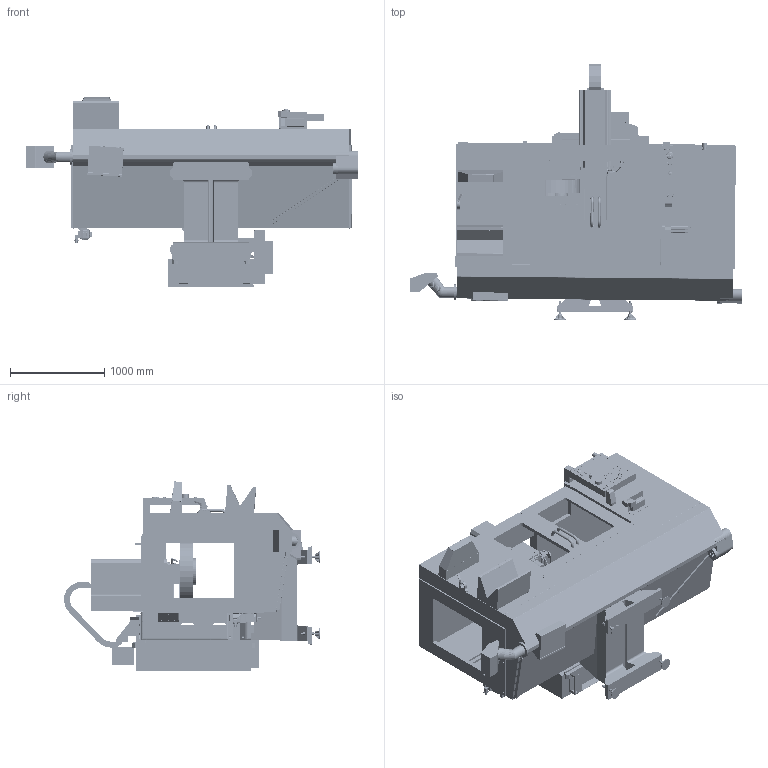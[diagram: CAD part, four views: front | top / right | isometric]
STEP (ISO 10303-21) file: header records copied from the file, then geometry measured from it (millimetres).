
FILE_DESCRIPTION (( 'STEP AP214' ), '1' );
FILE_NAME ('TM-2_2P-STEP_2021_10.STEP', '2021-11-03T20:55:57', ( '' ), ( '' ), 'SwSTEP 2.0', 'SolidWorks 2021', '' );
FILE_SCHEMA (( 'AUTOMOTIVE_DESIGN' ));
Length unit declared in the file: inch
Products named in the file (38): Default_defeature^10000161633_MLD_1_TM2-1; Add-Ons_TM2_2P_10_2021-1; Pads-1; 10000153663_MLD_1_TM2(Default_defeature); 10000161904_MLD_1_TM1(37-5229_defeature); Conv_PKG_TM2_2P_10_2021-1; Default_defeature^10000156941_MLD_1_TM2-1; Full_Enclosure_TM2_2P_10_2021( Shiipping); 37-5219 CORE ENCLOSURE TM-2, 2P REBOOT_defeature^10000162304_MLD_1_TM2-1; Default_defeature^10000161600_MLD_1_TM2-1; 10000156941_MLD_1_TM2(Default_defeature); 10000162304_MLD_1_TM2(37-5219 CORE ENCLOSURE TM-2, 2P REBOOT_defeature); UMB_10_PCKT_40T_BT_16in_TM1_1P_10_2021-1; UMB_20_PCKT_40BT_TM2_2P_10_2021-1; Table_TM2_2P_10_2021-1; Auger_TM2_2P_10_2021-1; Default_defeature^10000153663_MLD_1_TM2-1; 37-5104 TM-1P_defeature^10000156942_MLD_1_TM2-1; Pads_TM2_2P_10_2021-1; Spindle_Head_TM2P_2_10_2021-1; Saddle_TM2_2P_10_2021_2-1; Base_TM2_2P_10_2021-1; Spindle_TM_0_0P_1_1P_2_2P_-1; 37-5229_defeature^10000161904_MLD_1_TM1-1; 37-5231_defeature^10000161904_MLD_1_TM2-1; Column_TM2_2P_10_2021(Default); 32-6021B FRONT PANEL ASSY SMM LT GREY_defeature^10000057196_Pendant_Common-1; 10000156942_MLD_1_TM2(37-5104 TM-1P_defeature); 10000162273_MLD_1_TM2(Default_defeature); Enclosure_TM2_2P_10_2021(Default); TM-2_2P-STEP_2021_10; 10000161600_MLD_1_TM2(Default_defeature); 10000161904_MLD_1_TM2(37-5231_defeature); 10000057196_Pendant_Common(32-6021B FRONT PANEL ASSY SMM LT GREY_defeature); Default_defeature^10000162273_MLD_1_TM2-1; 10000161633_MLD_1_TM2(Default_defeature); E_Cabin(Shipping); Castings_TM2_2P_10_2021-1
Assembly tree (40 placements, depth 5):
  TM-2_2P-STEP_2021_10
    Castings_TM2_2P_10_2021-1
      Base_TM2_2P_10_2021-1
        10000161600_MLD_1_TM2(Default_defeature)
          Default_defeature^10000161600_MLD_1_TM2-1
      Column_TM2_2P_10_2021(Default)
        10000156941_MLD_1_TM2(Default_defeature)
          Default_defeature^10000156941_MLD_1_TM2-1
    Saddle_TM2_2P_10_2021_2-1
      10000156942_MLD_1_TM2(37-5104 TM-1P_defeature)
        37-5104 TM-1P_defeature^10000156942_MLD_1_TM2-1
    Table_TM2_2P_10_2021-1
      10000162273_MLD_1_TM2(Default_defeature)
        Default_defeature^10000162273_MLD_1_TM2-1
    Spindle_Head_TM2P_2_10_2021-1
      10000161633_MLD_1_TM2(Default_defeature)
        Default_defeature^10000161633_MLD_1_TM2-1
      Spindle_TM_0_0P_1_1P_2_2P_-1
    Full_Enclosure_TM2_2P_10_2021( Shiipping)
      Enclosure_TM2_2P_10_2021(Default)
        10000162304_MLD_1_TM2(37-5219 CORE ENCLOSURE TM-2, 2P REBOOT_defeature)
          37-5219 CORE ENCLOSURE TM-2, 2P REBOOT_defeature^10000162304_MLD_1_TM2-1
      10000057196_Pendant_Common(32-6021B FRONT PANEL ASSY SMM LT GREY_defeature)
        32-6021B FRONT PANEL ASSY SMM LT GREY_defeature^10000057196_Pendant_Common-1
      E_Cabin(Shipping)
    Add-Ons_TM2_2P_10_2021-1
      Conv_PKG_TM2_2P_10_2021-1
        10000153663_MLD_1_TM2(Default_defeature)
          Default_defeature^10000153663_MLD_1_TM2-1
      Auger_TM2_2P_10_2021-1
    UMB_20_PCKT_40BT_TM2_2P_10_2021-1
      10000161904_MLD_1_TM2(37-5231_defeature)
        37-5231_defeature^10000161904_MLD_1_TM2-1
    Pads_TM2_2P_10_2021-1
      Pads-1  x4
    UMB_10_PCKT_40T_BT_16in_TM1_1P_10_2021-1
      10000161904_MLD_1_TM1(37-5229_defeature)
        37-5229_defeature^10000161904_MLD_1_TM1-1
Bounding box: 3524.55 x 2715.94 x 2009.94 mm (x, y, z)
Volume: 1463686901.2 mm3; surface area: 75923366.9 mm2
Topology: 545 solids, 571 shells, 20987 faces, 55414 edges, 35911 vertices
Faces by surface type: plane 11533, cylinder 7320, bspline 938, cone 756, torus 369, sphere 71
Entity records: 674886 total; most frequent: CARTESIAN_POINT 151921, ORIENTED_EDGE 106330, DIRECTION 103306, EDGE_CURVE 53165, AXIS2_PLACEMENT_3D 35691, VERTEX_POINT 34684, VECTOR 31924, LINE 31924
